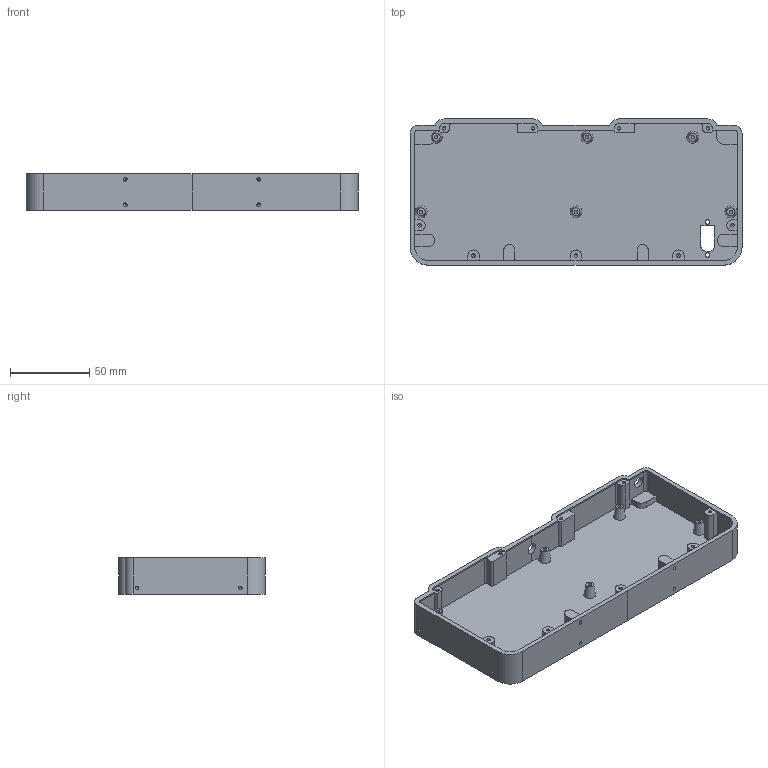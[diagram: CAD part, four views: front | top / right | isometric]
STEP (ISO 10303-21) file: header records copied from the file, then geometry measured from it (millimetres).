
FILE_DESCRIPTION(('FreeCAD Model'),'2;1');
FILE_NAME('Open CASCADE Shape Model','2023-08-22T14:48:23',('Author'),( ''),'Open CASCADE STEP processor 7.6','FreeCAD','Unknown');
FILE_SCHEMA(('AUTOMOTIVE_DESIGN { 1 0 10303 214 1 1 1 1 }'));
Length unit declared in the file: millimetre
Products named in the file (1): Отверстие под разъем питания
Bounding box: 209 x 92 x 23 mm (x, y, z)
Volume: 102515.2 mm3; surface area: 67418.9 mm2
Topology: 1 solids, 1 shells, 212 faces, 562 edges, 355 vertices
Faces by surface type: plane 98, cylinder 81, cone 33
Full cylindrical faces by diameter (mm): 2.2 x27, 2.8 x2, 7 x3
Entity records: 13417 total; most frequent: CARTESIAN_POINT 2297, DIRECTION 2162, LINE 1246, VECTOR 1246, ORIENTED_EDGE 1070, PCURVE 1070, DEFINITIONAL_REPRESENTATION 1070, EDGE_CURVE 535
